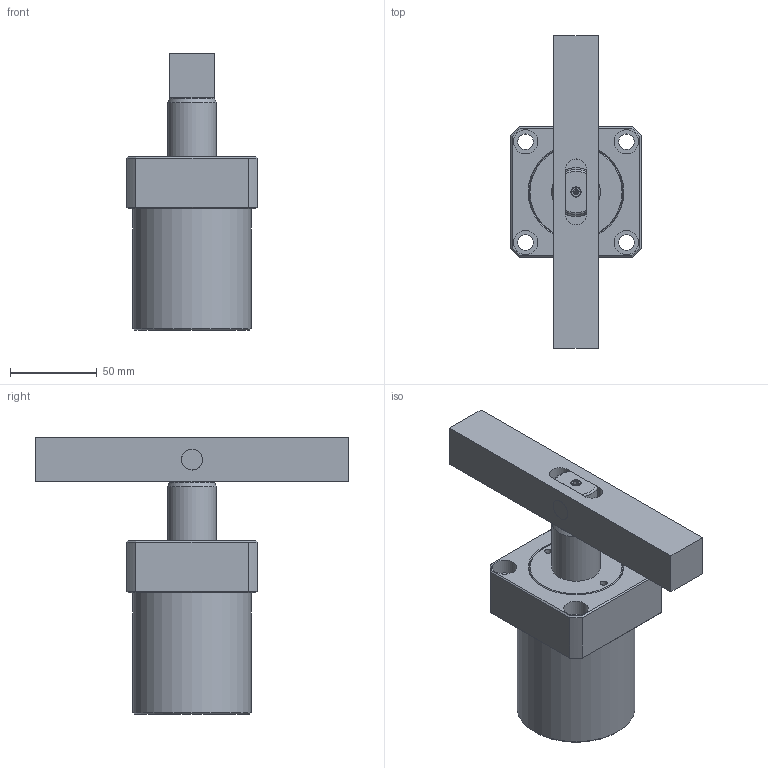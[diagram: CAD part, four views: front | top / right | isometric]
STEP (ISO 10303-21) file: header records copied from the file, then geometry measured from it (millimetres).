
FILE_DESCRIPTION(/* description */ (''),/* implementation_level */ '2;1');
FILE_NAME(/* name */ 'HSC-FA50D-B',/* time_stamp */ '2020-10-22T09:25:06+08:00',/* author */ ('JEFF HUANG'),/* organization */ ('TAIWAN AMAC CLAMP INDUSTRIAL CO., LTD.'),/* preprocessor_version */ 'ST-DEVELOPER v16.7',/* originating_system */ 'DEX',/* authorisation */ $);
FILE_SCHEMA (('AUTOMOTIVE_DESIGN {1 0 10303 214 3 1 1}'));
Length unit declared in the file: millimetre
Products named in the file (5): HSC-FA50D-B; HSC-FA50D-CYLINDER; HSC-5002-D-AXLE CENTRE; HSC-5002-D-FIXED PIN; HSC-50D-B
Assembly tree (4 placements, depth 2):
  HSC-FA50D-B
    HSC-FA50D-CYLINDER
    HSC-5002-D-AXLE CENTRE
    HSC-5002-D-FIXED PIN
    HSC-50D-B
Bounding box: 75 x 180 x 159.4 mm (x, y, z)
Volume: 482206.7 mm3; surface area: 88424.5 mm2
Topology: 4 solids, 4 shells, 114 faces, 237 edges, 146 vertices
Faces by surface type: plane 51, cylinder 29, cone 24, bspline 6, torus 4
Full cylindrical faces by diameter (mm): 4.1 x2, 9 x4, 12 x4, 12.301 x2, 14 x4, 28 x2, 50 x2, 68 x1
Entity records: 3399 total; most frequent: CARTESIAN_POINT 639, DIRECTION 480, ORIENTED_EDGE 382, AXIS2_PLACEMENT_3D 208, EDGE_CURVE 191, EDGE_LOOP 178, FACE_BOUND 178, VERTEX_POINT 133
